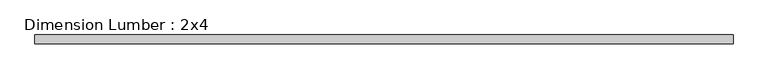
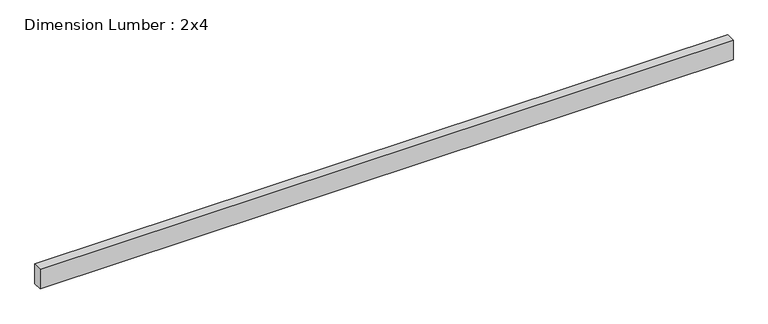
"""IFC4 building model written with IfcOpenShell, lengths in millimetres: beam geometry, Dimension Lumber : 2x4."""

from ifc_helpers import new_model, si_unit, frame, origin, place, context, project, spatial, polyline, outline, extrude, source, transform, mapped, element, save


def dimension_lumber_2x4_738760fd(model_context):
    return source(origin(), model_context, "Body", "SweptSolid", [
        extrude(outline(polyline([(1470.6699219, 19.05), (1470.6699219, -19.05), (-1470.6699219, -19.05), (-1470.6699219, 19.05), (1470.6699219, 19.05)])), frame((0.0, 0.0, -44.45), z_axis=(0.0, 0.0, 1.0), x_axis=(1.0, 0.0, 0.0)), (0.0, 0.0, 1.0), 88.9),
    ])


if __name__ == "__main__":
    model = new_model("IFC4")
    model_context = context("Model", 3, world=origin())
    ifc_project = project(units=[si_unit("LENGTHUNIT", "METRE", prefix="MILLI")], contexts=[model_context])
    site = spatial("IfcSite", under=ifc_project)
    building = spatial("IfcBuilding", under=site)
    placement = place(None, origin())
    dimension_lumber_2x4_shape = dimension_lumber_2x4_738760fd(model_context)
    element("IfcBeam", 1, ObjectType="Dimension Lumber : 2x4", at=placement, inside=building, context=model_context, shape_type="MappedRepresentation", body=[
        mapped(dimension_lumber_2x4_shape, transform((0.0, 0.0, 0.0), x_axis=(1.0, 0.0, 0.0), y_axis=(0.0, 1.0, 0.0), z_axis=(0.0, 0.0, 1.0))),
    ])
    save(model, "model.ifc")
